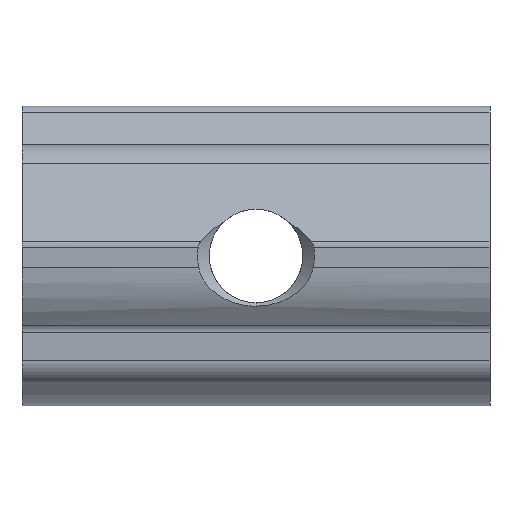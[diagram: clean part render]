
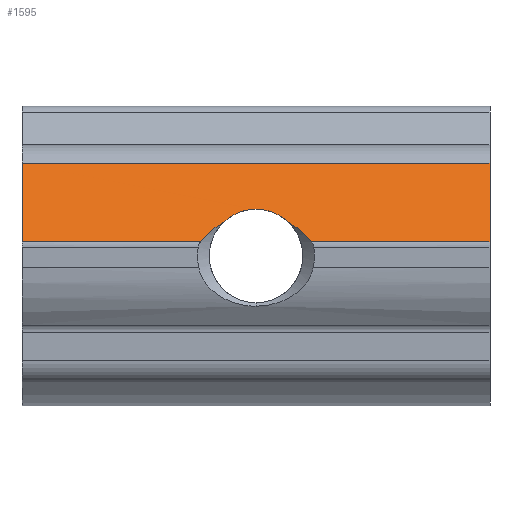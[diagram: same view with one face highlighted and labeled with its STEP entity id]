
A CAD part, front view. The second image highlights one B-rep face of the part: STEP entity #1595.
In plain terms, the highlighted planar face has unit normal (0, -0.883, 0.469).
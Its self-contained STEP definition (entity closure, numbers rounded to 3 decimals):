
#242=CARTESIAN_POINT('',(-5.698,9.778,13.033));
#243=VERTEX_POINT('',#242);
#253=CARTESIAN_POINT('',(14.302,9.778,13.033));
#254=VERTEX_POINT('',#253);
#255=CARTESIAN_POINT('',(-5.698,9.778,13.033));
#256=DIRECTION('',(1.0,0.0,0.0));
#257=VECTOR('',#256,20.0);
#258=LINE('',#255,#257);
#259=EDGE_CURVE('',#243,#254,#258,.T.);
#405=CARTESIAN_POINT('',(14.302,7.998,9.685));
#406=VERTEX_POINT('',#405);
#407=CARTESIAN_POINT('',(14.302,7.998,9.685));
#408=DIRECTION('',(0.0,0.469,0.883));
#409=VECTOR('',#408,3.791);
#410=LINE('',#407,#409);
#411=EDGE_CURVE('',#406,#254,#410,.T.);
#1325=CARTESIAN_POINT('',(6.666,7.998,9.685));
#1326=VERTEX_POINT('',#1325);
#1334=CARTESIAN_POINT('',(5.689,8.44,10.516));
#1335=VERTEX_POINT('',#1334);
#1336=CARTESIAN_POINT('',(6.666,7.998,9.685));
#1337=CARTESIAN_POINT('',(6.402,8.172,10.012));
#1338=CARTESIAN_POINT('',(6.075,8.326,10.302));
#1339=CARTESIAN_POINT('',(5.689,8.44,10.516));
#1340=QUASI_UNIFORM_CURVE('',3,(#1336,#1337,#1338,#1339),.UNSPECIFIED.,.F.,.U.);
#1341=EDGE_CURVE('',#1326,#1335,#1340,.T.);
#1532=CARTESIAN_POINT('',(14.302,8.888,11.359));
#1533=DIRECTION('',(0.0,-0.883,0.469));
#1534=DIRECTION('',(0.0,-0.469,-0.883));
#1535=AXIS2_PLACEMENT_3D('',#1532,#1533,#1534);
#1536=PLANE('',#1535);
#1537=CARTESIAN_POINT('',(2.914,8.44,10.516));
#1538=VERTEX_POINT('',#1537);
#1539=CARTESIAN_POINT('',(1.938,7.998,9.685));
#1540=VERTEX_POINT('',#1539);
#1541=CARTESIAN_POINT('',(2.914,8.44,10.516));
#1542=CARTESIAN_POINT('',(2.529,8.326,10.302));
#1543=CARTESIAN_POINT('',(2.202,8.172,10.012));
#1544=CARTESIAN_POINT('',(1.938,7.998,9.685));
#1545=QUASI_UNIFORM_CURVE('',3,(#1541,#1542,#1543,#1544),.UNSPECIFIED.,.F.,.U.);
#1546=EDGE_CURVE('',#1538,#1540,#1545,.T.);
#1547=ORIENTED_EDGE('',*,*,#1546,.F.);
#1548=CARTESIAN_POINT('',(4.302,8.736,11.075));
#1549=VERTEX_POINT('',#1548);
#1550=CARTESIAN_POINT('',(2.914,8.44,10.516));
#1551=CARTESIAN_POINT('',(3.165,8.568,10.757));
#1552=CARTESIAN_POINT('',(3.489,8.665,10.939));
#1553=CARTESIAN_POINT('',(3.847,8.709,11.023));
#1554=CARTESIAN_POINT('',(3.995,8.728,11.057));
#1555=CARTESIAN_POINT('',(4.148,8.737,11.075));
#1556=CARTESIAN_POINT('',(4.302,8.737,11.075));
#1557=B_SPLINE_CURVE_WITH_KNOTS('',3,(#1550,#1551,#1552,#1553,#1554,#1555,#1556),.UNSPECIFIED.,.F.,.U.,(4,3,4),(0.0,0.324,0.458),.UNSPECIFIED.);
#1558=EDGE_CURVE('',#1538,#1549,#1557,.T.);
#1559=ORIENTED_EDGE('',*,*,#1558,.T.);
#1560=CARTESIAN_POINT('',(4.302,8.737,11.075));
#1561=CARTESIAN_POINT('',(4.661,8.737,11.075));
#1562=CARTESIAN_POINT('',(5.017,8.684,10.975));
#1563=CARTESIAN_POINT('',(5.316,8.59,10.799));
#1564=CARTESIAN_POINT('',(5.453,8.547,10.718));
#1565=CARTESIAN_POINT('',(5.578,8.497,10.623));
#1566=CARTESIAN_POINT('',(5.689,8.44,10.516));
#1567=B_SPLINE_CURVE_WITH_KNOTS('',3,(#1560,#1561,#1562,#1563,#1564,#1565,#1566),.UNSPECIFIED.,.F.,.U.,(4,3,4),(0.458,0.83,1.0),.UNSPECIFIED.);
#1568=EDGE_CURVE('',#1549,#1335,#1567,.T.);
#1569=ORIENTED_EDGE('',*,*,#1568,.T.);
#1570=ORIENTED_EDGE('',*,*,#1341,.F.);
#1571=CARTESIAN_POINT('',(6.666,7.998,9.685));
#1572=DIRECTION('',(1.0,0.,0.));
#1573=VECTOR('',#1572,7.636);
#1574=LINE('',#1571,#1573);
#1575=EDGE_CURVE('',#1326,#406,#1574,.T.);
#1576=ORIENTED_EDGE('',*,*,#1575,.T.);
#1577=ORIENTED_EDGE('',*,*,#411,.T.);
#1578=ORIENTED_EDGE('',*,*,#259,.F.);
#1579=CARTESIAN_POINT('',(-5.698,7.998,9.685));
#1580=VERTEX_POINT('',#1579);
#1581=CARTESIAN_POINT('',(-5.698,9.778,13.033));
#1582=DIRECTION('',(0.0,-0.469,-0.883));
#1583=VECTOR('',#1582,3.791);
#1584=LINE('',#1581,#1583);
#1585=EDGE_CURVE('',#243,#1580,#1584,.T.);
#1586=ORIENTED_EDGE('',*,*,#1585,.T.);
#1587=CARTESIAN_POINT('',(-5.698,7.998,9.685));
#1588=DIRECTION('',(1.0,0.,0.));
#1589=VECTOR('',#1588,7.636);
#1590=LINE('',#1587,#1589);
#1591=EDGE_CURVE('',#1580,#1540,#1590,.T.);
#1592=ORIENTED_EDGE('',*,*,#1591,.T.);
#1593=EDGE_LOOP('',(#1547,#1559,#1569,#1570,#1576,#1577,#1578,#1586,#1592));
#1594=FACE_OUTER_BOUND('',#1593,.T.);
#1595=ADVANCED_FACE('',(#1594),#1536,.T.);
